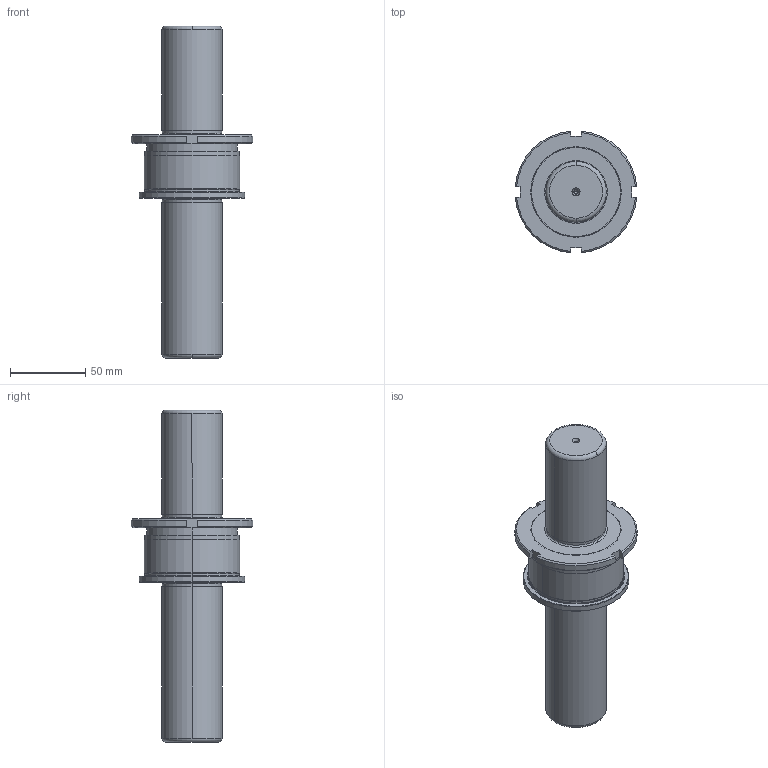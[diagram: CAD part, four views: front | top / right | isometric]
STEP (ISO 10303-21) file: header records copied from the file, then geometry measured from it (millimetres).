
FILE_DESCRIPTION((''),'2;1');
FILE_NAME('CMF_040_220.stp','2008-11-04T11:13:58',(''),(''),'Mechanical Desktop 2009','Mechanical Desktop 2009',', , ');
FILE_SCHEMA(('CONFIG_CONTROL_DESIGN'));
Length unit declared in the file: millimetre
Products named in the file (2): Product; blmdl1
Assembly tree (1 placements, depth 2):
  Product
    blmdl1
Bounding box: 80.7 x 80.7 x 220 mm (x, y, z)
Volume: 366502.4 mm3; surface area: 45732.5 mm2
Topology: 2 solids, 2 shells, 92 faces, 223 edges, 141 vertices
Faces by surface type: cylinder 30, cone 28, plane 24, bspline 6, torus 4
Entity records: 3035 total; most frequent: CARTESIAN_POINT 750, DIRECTION 496, ORIENTED_EDGE 438, EDGE_CURVE 219, AXIS2_PLACEMENT_3D 205, VERTEX_POINT 141, CIRCLE 117, EDGE_LOOP 104
